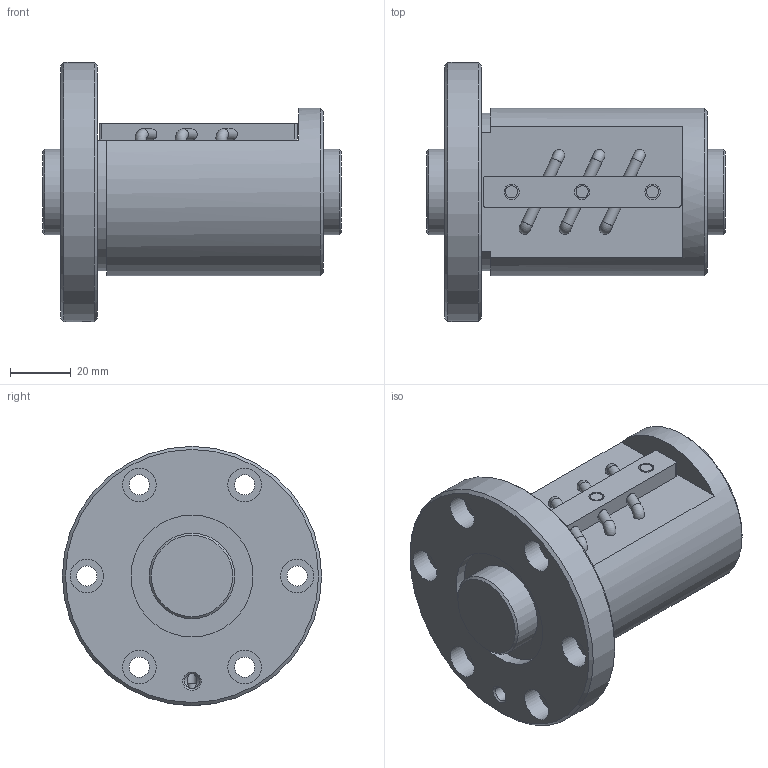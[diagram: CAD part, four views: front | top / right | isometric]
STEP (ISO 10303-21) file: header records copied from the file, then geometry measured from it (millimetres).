
FILE_DESCRIPTION(/* description */ ('STEP AP203'),/* implementation_level */ '2;1');
FILE_NAME(/* name */ 'BNF2806V-7.5RRG1+98LC0_000_rev',/* time_stamp */ '2024-08-06T07:30:54+02:00',/* author */ ('License CC BY-ND 4.0'),/* organization */ ('CADENAS'),/* preprocessor_version */ 'ST-DEVELOPER v19.3',/* originating_system */ 'PARTsolutions',/* authorisation */ ' ');
FILE_SCHEMA (('CONFIG_CONTROL_DESIGN'));
Length unit declared in the file: millimetre
Products named in the file (3): BNF2806V-7.5RRG1+98LC0_000_rev; BNF 2806-7.5RR000 Shaft; BNF 2806-7.5RR Nut
Assembly tree (2 placements, depth 2):
  BNF2806V-7.5RRG1+98LC0_000_rev
    BNF 2806-7.5RR000 Shaft
    BNF 2806-7.5RR Nut
Bounding box: 98 x 85 x 85 mm (x, y, z)
Volume: 223913.5 mm3; surface area: 47302.7 mm2
Topology: 2 solids, 2 shells, 85 faces, 198 edges, 131 vertices
Faces by surface type: cylinder 41, plane 30, cone 8, torus 6
Full cylindrical faces by diameter (mm): 3 x2, 3.665 x6, 4 x3, 4.917 x1, 5 x3, 6.6 x6, 11 x6, 28 x2, 40 x2, 55 x1, 85 x1
Entity records: 2221 total; most frequent: CARTESIAN_POINT 400, DIRECTION 386, ORIENTED_EDGE 262, AXIS2_PLACEMENT_3D 179, EDGE_LOOP 174, FACE_BOUND 174, EDGE_CURVE 131, VERTEX_POINT 111
